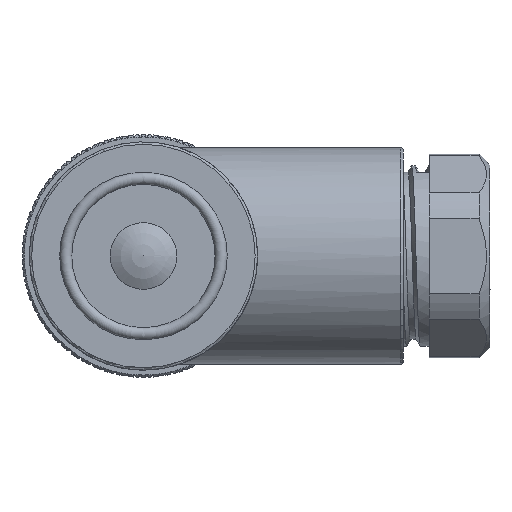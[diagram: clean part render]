
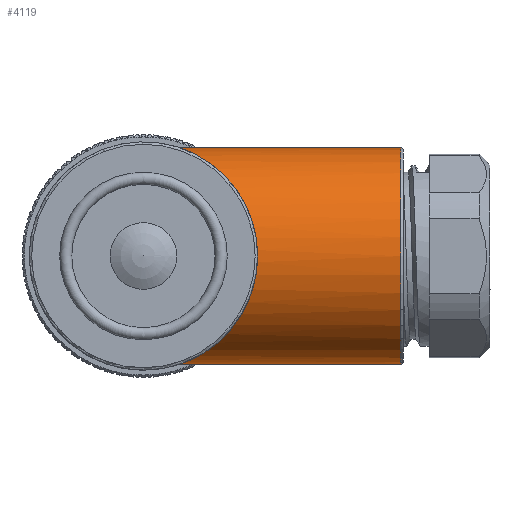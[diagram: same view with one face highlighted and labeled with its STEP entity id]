
A CAD part, front view. The second image highlights one B-rep face of the part: STEP entity #4119.
In plain terms, the highlighted cylindrical face has radius 8.9 mm (diameter 17.8 mm), a full revolution.
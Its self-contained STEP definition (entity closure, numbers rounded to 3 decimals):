
#625=CYLINDRICAL_SURFACE('',#20040,8.9);
#2136=LINE('',#28199,#3126);
#2137=LINE('',#28222,#3127);
#3126=VECTOR('',#22428,1.);
#3127=VECTOR('',#22429,1.);
#4119=ADVANCED_FACE('',(#6542,#6543),#625,.T.);
#5708=B_SPLINE_CURVE_WITH_KNOTS('',3,(#28166,#28167,#28168,#28169,#28170,
#28171,#28172,#28173,#28174,#28175,#28176,#28177,#28178,#28179,#28180,#28181,
#28182,#28183,#28184,#28185,#28186,#28187),.UNSPECIFIED.,.F.,.F.,(4,2,2,
2,2,2,2,2,2,2,4),(0.,0.063,0.125,0.25,0.375,0.5,0.625,0.75,
0.875,0.938,1.),.UNSPECIFIED.);
#5709=B_SPLINE_CURVE_WITH_KNOTS('',3,(#28201,#28202,#28203,#28204,#28205,
#28206,#28207,#28208,#28209,#28210,#28211,#28212,#28213,#28214,#28215,#28216,
#28217,#28218,#28219,#28220),.UNSPECIFIED.,.F.,.F.,(4,2,2,2,2,2,2,2,2,4),
(0.,0.063,0.125,0.25,0.375,0.5,0.625,0.75,0.875,1.),.UNSPECIFIED.);
#6542=FACE_BOUND('',#6888,.T.);
#6543=FACE_BOUND('',#6889,.T.);
#6888=EDGE_LOOP('',(#8374));
#6889=EDGE_LOOP('',(#8375,#8376,#8377,#8378,#8379));
#8374=ORIENTED_EDGE('',*,*,#16031,.T.);
#8375=ORIENTED_EDGE('',*,*,#16032,.F.);
#8376=ORIENTED_EDGE('',*,*,#16033,.F.);
#8377=ORIENTED_EDGE('',*,*,#16034,.F.);
#8378=ORIENTED_EDGE('',*,*,#16035,.F.);
#8379=ORIENTED_EDGE('',*,*,#16027,.F.);
#14182=VERTEX_POINT('',#28164);
#14184=VERTEX_POINT('',#28188);
#14187=VERTEX_POINT('',#28196);
#14188=VERTEX_POINT('',#28198);
#14189=VERTEX_POINT('',#28200);
#14190=VERTEX_POINT('',#28221);
#16027=EDGE_CURVE('',#14182,#14184,#5708,.T.);
#16031=EDGE_CURVE('',#14187,#14187,#18902,.T.);
#16032=EDGE_CURVE('',#14188,#14182,#18903,.T.);
#16033=EDGE_CURVE('',#14189,#14188,#2136,.T.);
#16034=EDGE_CURVE('',#14190,#14189,#5709,.T.);
#16035=EDGE_CURVE('',#14184,#14190,#2137,.T.);
#18902=CIRCLE('',#20038,8.9);
#18903=CIRCLE('',#20039,8.9);
#20038=AXIS2_PLACEMENT_3D('',#28195,#22424,#22425);
#20039=AXIS2_PLACEMENT_3D('',#28197,#22426,#22427);
#20040=AXIS2_PLACEMENT_3D('',#28223,#22430,#22431);
#22424=DIRECTION('',(-1.,0.,0.));
#22425=DIRECTION('',(0.,1.,0.));
#22426=DIRECTION('',(1.,0.,0.));
#22427=DIRECTION('',(0.,0.,-1.));
#22428=DIRECTION('',(-1.,0.,0.));
#22429=DIRECTION('',(1.,0.,0.));
#22430=DIRECTION('',(-1.,0.,0.));
#22431=DIRECTION('',(0.,-1.,0.));
#28164=CARTESIAN_POINT('',(1.338,-27.919,8.9));
#28166=CARTESIAN_POINT('',(1.338,-27.919,8.9));
#28167=CARTESIAN_POINT('',(1.328,-27.225,8.902));
#28168=CARTESIAN_POINT('',(1.804,-26.649,8.828));
#28169=CARTESIAN_POINT('',(2.643,-25.599,8.614));
#28170=CARTESIAN_POINT('',(3.088,-25.112,8.468));
#28171=CARTESIAN_POINT('',(4.41,-23.682,7.904));
#28172=CARTESIAN_POINT('',(5.294,-22.775,7.358));
#28173=CARTESIAN_POINT('',(6.877,-21.152,5.905));
#28174=CARTESIAN_POINT('',(7.604,-20.414,4.974));
#28175=CARTESIAN_POINT('',(8.67,-19.334,2.719));
#28176=CARTESIAN_POINT('',(8.998,-19.002,1.365));
#28177=CARTESIAN_POINT('',(9.002,-18.998,-1.34));
#28178=CARTESIAN_POINT('',(8.676,-19.327,-2.698));
#28179=CARTESIAN_POINT('',(7.616,-20.402,-4.955));
#28180=CARTESIAN_POINT('',(6.891,-21.138,-5.889));
#28181=CARTESIAN_POINT('',(5.305,-22.763,-7.35));
#28182=CARTESIAN_POINT('',(4.42,-23.672,-7.898));
#28183=CARTESIAN_POINT('',(3.101,-25.096,-8.462));
#28184=CARTESIAN_POINT('',(2.658,-25.582,-8.609));
#28185=CARTESIAN_POINT('',(1.822,-26.625,-8.824));
#28186=CARTESIAN_POINT('',(1.338,-27.204,-8.9));
#28187=CARTESIAN_POINT('',(1.338,-27.9,-8.9));
#28188=CARTESIAN_POINT('',(1.338,-27.9,-8.9));
#28195=CARTESIAN_POINT('',(21.2,-27.9,0.));
#28196=CARTESIAN_POINT('',(21.2,-19.,0.));
#28197=CARTESIAN_POINT('',(1.338,-27.9,0.));
#28198=CARTESIAN_POINT('',(1.338,-27.9,8.9));
#28199=CARTESIAN_POINT('',(21.4,-27.9,8.9));
#28200=CARTESIAN_POINT('',(3.025,-27.9,8.9));
#28201=CARTESIAN_POINT('',(3.025,-27.9,-8.9));
#28202=CARTESIAN_POINT('',(3.025,-28.564,-8.9));
#28203=CARTESIAN_POINT('',(3.252,-29.188,-8.825));
#28204=CARTESIAN_POINT('',(3.845,-30.323,-8.583));
#28205=CARTESIAN_POINT('',(4.209,-30.844,-8.416));
#28206=CARTESIAN_POINT('',(5.322,-32.327,-7.795));
#28207=CARTESIAN_POINT('',(6.092,-33.199,-7.234));
#28208=CARTESIAN_POINT('',(7.523,-34.797,-5.731));
#28209=CARTESIAN_POINT('',(8.168,-35.489,-4.805));
#28210=CARTESIAN_POINT('',(9.113,-36.498,-2.598));
#28211=CARTESIAN_POINT('',(9.398,-36.798,-1.314));
#28212=CARTESIAN_POINT('',(9.402,-36.802,1.29));
#28213=CARTESIAN_POINT('',(9.116,-36.501,2.59));
#28214=CARTESIAN_POINT('',(8.171,-35.493,4.8));
#28215=CARTESIAN_POINT('',(7.524,-34.798,5.728));
#28216=CARTESIAN_POINT('',(6.102,-33.211,7.225));
#28217=CARTESIAN_POINT('',(5.32,-32.324,7.796));
#28218=CARTESIAN_POINT('',(3.844,-30.359,8.62));
#28219=CARTESIAN_POINT('',(3.025,-29.225,8.9));
#28220=CARTESIAN_POINT('',(3.025,-27.9,8.9));
#28221=CARTESIAN_POINT('',(3.025,-27.9,-8.9));
#28222=CARTESIAN_POINT('',(21.4,-27.9,-8.9));
#28223=CARTESIAN_POINT('',(21.4,-27.9,0.));
